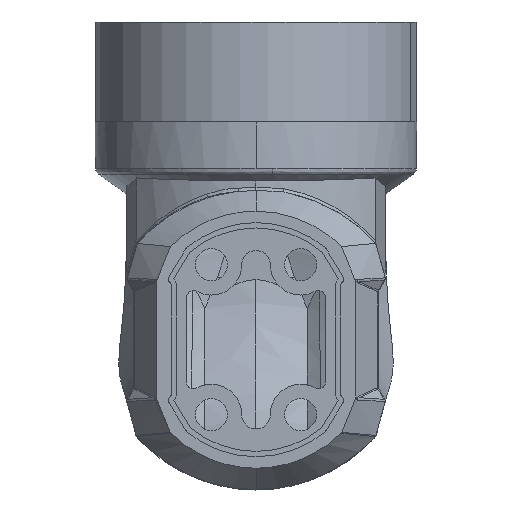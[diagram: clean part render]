
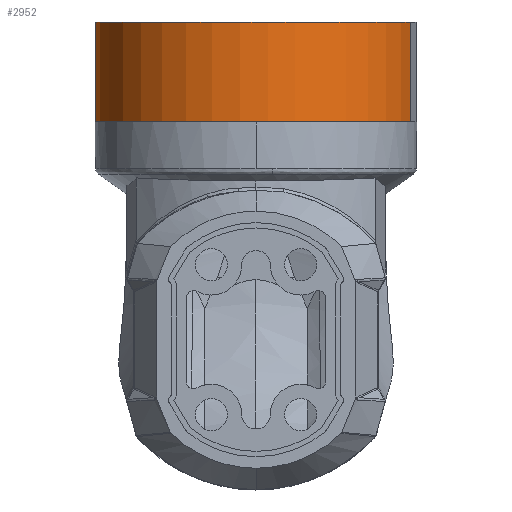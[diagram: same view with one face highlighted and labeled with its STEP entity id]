
A CAD part, left-side view. The second image highlights one B-rep face of the part: STEP entity #2952.
In plain terms, the highlighted cylindrical face has radius 45 mm (diameter 90 mm), a partial arc.
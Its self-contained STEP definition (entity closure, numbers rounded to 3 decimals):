
#704 = CARTESIAN_POINT ( 'NONE',  ( -45., 0., -379.5 ) ) ;
#745 = EDGE_CURVE ( 'NONE', #25794, #35054, #13122, .T. ) ;
#1010 = EDGE_CURVE ( 'NONE', #29899, #25794, #25802, .T. ) ;
#1874 = CARTESIAN_POINT ( 'NONE',  ( 0., 0., -351.5 ) ) ;
#2340 = DIRECTION ( 'NONE',  ( 0., 0., 1. ) ) ;
#2952 = ADVANCED_FACE ( 'NONE', ( #23057 ), #7629, .T. ) ;
#4486 = EDGE_LOOP ( 'NONE', ( #14182, #7999, #33851, #10271 ) ) ;
#4774 = DIRECTION ( 'NONE',  ( 1., 0., 0. ) ) ;
#6567 = AXIS2_PLACEMENT_3D ( 'NONE', #9433, #29727, #12340 ) ;
#7629 = CYLINDRICAL_SURFACE ( 'NONE', #20650, 45. ) ;
#7999 = ORIENTED_EDGE ( 'NONE', *, *, #1010, .T. ) ;
#9433 = CARTESIAN_POINT ( 'NONE',  ( 0., 0., -379.5 ) ) ;
#9585 = LINE ( 'NONE', #9778, #32740 ) ;
#9778 = CARTESIAN_POINT ( 'NONE',  ( -45., 0., -364. ) ) ;
#10271 = ORIENTED_EDGE ( 'NONE', *, *, #15874, .T. ) ;
#12340 = DIRECTION ( 'NONE',  ( 1., 0., 0. ) ) ;
#12646 = DIRECTION ( 'NONE',  ( 0., 0., 1. ) ) ;
#13122 = LINE ( 'NONE', #13867, #20824 ) ;
#13867 = CARTESIAN_POINT ( 'NONE',  ( 45., 0., -364. ) ) ;
#14182 = ORIENTED_EDGE ( 'NONE', *, *, #21894, .F. ) ;
#15874 = EDGE_CURVE ( 'NONE', #35054, #32361, #35049, .T. ) ;
#16962 = CARTESIAN_POINT ( 'NONE',  ( -45., 0., -351.5 ) ) ;
#20650 = AXIS2_PLACEMENT_3D ( 'NONE', #23834, #35396, #29420 ) ;
#20824 = VECTOR ( 'NONE', #2340, 1000. ) ;
#21894 = EDGE_CURVE ( 'NONE', #29899, #32361, #9585, .T. ) ;
#22152 = DIRECTION ( 'NONE',  ( 0., 0., -1. ) ) ;
#23057 = FACE_OUTER_BOUND ( 'NONE', #4486, .T. ) ;
#23834 = CARTESIAN_POINT ( 'NONE',  ( 0., 0., -364. ) ) ;
#24295 = CARTESIAN_POINT ( 'NONE',  ( 45., 0., -379.5 ) ) ;
#25794 = VERTEX_POINT ( 'NONE', #24295 ) ;
#25802 = CIRCLE ( 'NONE', #6567, 45. ) ;
#26594 = AXIS2_PLACEMENT_3D ( 'NONE', #1874, #22152, #4774 ) ;
#28129 = CARTESIAN_POINT ( 'NONE',  ( 45., 0., -351.5 ) ) ;
#29420 = DIRECTION ( 'NONE',  ( 1., 0., 0. ) ) ;
#29727 = DIRECTION ( 'NONE',  ( 0., 0., 1. ) ) ;
#29899 = VERTEX_POINT ( 'NONE', #704 ) ;
#32361 = VERTEX_POINT ( 'NONE', #16962 ) ;
#32740 = VECTOR ( 'NONE', #12646, 1000. ) ;
#33851 = ORIENTED_EDGE ( 'NONE', *, *, #745, .T. ) ;
#35049 = CIRCLE ( 'NONE', #26594, 45. ) ;
#35054 = VERTEX_POINT ( 'NONE', #28129 ) ;
#35396 = DIRECTION ( 'NONE',  ( 0., 0., 1. ) ) ;
